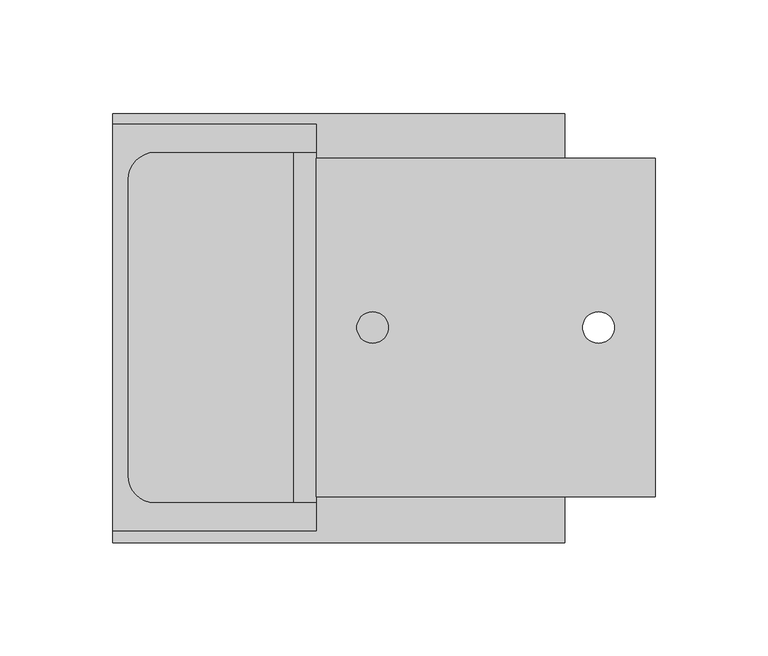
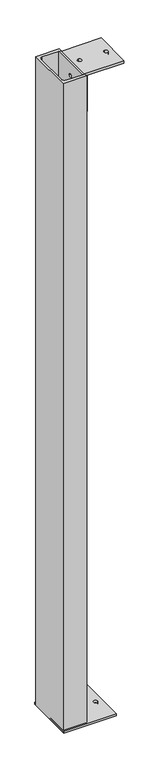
"""IFC4 building model written with IfcOpenShell, lengths in millimetres: column geometry, UKPFC-Parallel Flange Channels-Column_Connections_Top rotated : UKPFC180x90x26."""

from ifc_helpers import new_model, si_unit, point, frame, frame_2d, origin, place, context, project, spatial, polyline, circle_curve, trimmed, segment, composite_curve, outline, extrude, source, transform, mapped, element, save
from ifc_brep_helpers import plane_surface, revolved_surface, advanced_brep


def column_0594fa48(model_context):
    return source(origin(), model_context, "Body", "SolidModel", [
        extrude(outline(composite_curve([segment(polyline([(58.3, 90.0), (58.3, 77.5), (-13.2, 77.5)]), True, "CONTINUOUS"), segment(trimmed(circle_curve(frame_2d((-13.2, 65.5)), 12.0), [point((-13.2, 77.5))], [point((-25.2, 65.5))], True, "CARTESIAN"), True, "CONTINUOUS"), segment(polyline([(-25.2, 65.5), (-25.2, -65.5)]), True, "CONTINUOUS"), segment(trimmed(circle_curve(frame_2d((-13.2, -65.5)), 12.0), [point((-25.2, -65.5))], [point((-13.2, -77.5))], True, "CARTESIAN"), True, "CONTINUOUS"), segment(polyline([(-13.2, -77.5), (58.3, -77.5), (58.3, -90.0), (-31.7, -90.0), (-31.7, 90.0), (58.3, 90.0)]), True, "CONTINUOUS")], self_intersect=False)), frame((0.0, 0.0, 242.0), z_axis=(0.0, 0.0, 1.0), x_axis=(1.0, 0.0, 0.0)), (0.0, 0.0, 1.0), 2605.0),
        advanced_brep(
        [(208.3, -75.0, 2847.0), (208.3, 75.0, 2847.0), (58.3, 75.0, 2847.0), (58.3, -75.0, 2847.0), (183.3, 7.0, 2847.0), (183.3, -7.0, 2847.0), (83.3, 7.0, 2847.0), (83.3, -7.0, 2847.0), (208.3, 75.0, 2837.0), (208.3, -75.0, 2837.0), (68.3, -75.0, 2837.0), (68.3, 75.0, 2837.0), (183.3, 7.0, 2837.0), (183.3, -7.0, 2837.0), (83.3, 7.0, 2837.0), (83.3, -7.0, 2837.0), (68.3, 75.0, 2692.0), (58.3, 75.0, 2692.0), (58.3, -75.0, 2692.0), (58.3, -7.0, 2797.0), (58.3, 7.0, 2797.0), (58.3, -7.0, 2742.0), (58.3, 7.0, 2742.0), (68.3, -75.0, 2692.0), (68.3, -7.0, 2797.0), (68.3, 7.0, 2797.0), (68.3, -7.0, 2742.0), (68.3, 7.0, 2742.0)],
        [
            (0, 1),
            (1, 2),
            (2, 3),
            (3, 0),
            (4, 5, circle_curve(frame((183.3, 0.0, 2847.0), z_axis=(0.0, 0.0, -1.0), x_axis=(0.0, -1.0, 0.0)), 7.0)),
            (5, 4, circle_curve(frame((183.3, 0.0, 2847.0), z_axis=(0.0, 0.0, -1.0), x_axis=(0.0, -1.0, 0.0)), 7.0)),
            (6, 7, circle_curve(frame((83.3, 0.0, 2847.0), z_axis=(0.0, 0.0, -1.0), x_axis=(0.0, -1.0, 0.0)), 7.0)),
            (7, 6, circle_curve(frame((83.3, 0.0, 2847.0), z_axis=(0.0, 0.0, -1.0), x_axis=(0.0, -1.0, 0.0)), 7.0)),
            (8, 9),
            (9, 10),
            (10, 11),
            (11, 8),
            (12, 13, circle_curve(frame((183.3, 0.0, 2837.0), z_axis=(0.0, 0.0, 1.0), x_axis=(0.0, -1.0, 0.0)), 7.0)),
            (13, 12, circle_curve(frame((183.3, 0.0, 2837.0), z_axis=(0.0, 0.0, 1.0), x_axis=(0.0, -1.0, 0.0)), 7.0)),
            (14, 15, circle_curve(frame((83.3, 0.0, 2837.0), z_axis=(0.0, 0.0, 1.0), x_axis=(0.0, -1.0, 0.0)), 7.0)),
            (15, 14, circle_curve(frame((83.3, 0.0, 2837.0), z_axis=(0.0, 0.0, 1.0), x_axis=(0.0, -1.0, 0.0)), 7.0)),
            (0, 9),
            (8, 1),
            (11, 16),
            (16, 17),
            (17, 2),
            (17, 18),
            (18, 3),
            (19, 20, circle_curve(frame((58.3, 0.0, 2797.0), z_axis=(1.0, 0.0, 0.0), x_axis=(0.0, 1.0, 0.0)), 7.0)),
            (20, 19, circle_curve(frame((58.3, 0.0, 2797.0), z_axis=(1.0, 0.0, 0.0), x_axis=(0.0, 1.0, 0.0)), 7.0)),
            (21, 22, circle_curve(frame((58.3, 0.0, 2742.0), z_axis=(1.0, 0.0, 0.0), x_axis=(0.0, 1.0, 0.0)), 7.0)),
            (22, 21, circle_curve(frame((58.3, 0.0, 2742.0), z_axis=(1.0, 0.0, 0.0), x_axis=(0.0, 1.0, 0.0)), 7.0)),
            (18, 23),
            (23, 10),
            (4, 12),
            (13, 5),
            (6, 14),
            (15, 7),
            (23, 16),
            (24, 25, circle_curve(frame((68.3, 0.0, 2797.0), z_axis=(-1.0, 0.0, 0.0), x_axis=(0.0, 1.0, 0.0)), 7.0)),
            (25, 24, circle_curve(frame((68.3, 0.0, 2797.0), z_axis=(-1.0, 0.0, 0.0), x_axis=(0.0, 1.0, 0.0)), 7.0)),
            (26, 27, circle_curve(frame((68.3, 0.0, 2742.0), z_axis=(-1.0, 0.0, 0.0), x_axis=(0.0, 1.0, 0.0)), 7.0)),
            (27, 26, circle_curve(frame((68.3, 0.0, 2742.0), z_axis=(-1.0, 0.0, 0.0), x_axis=(0.0, 1.0, 0.0)), 7.0)),
            (24, 19),
            (20, 25),
            (26, 21),
            (22, 27),
        ],
        [
            plane_surface(frame((208.3, 125.0, 2847.0), z_axis=(0.0, 0.0, 1.0), x_axis=(0.0, 1.0, 0.0))),
            plane_surface(frame((208.3, 125.0, 2837.0), z_axis=(0.0, 0.0, -1.0), x_axis=(0.0, -1.0, 0.0))),
            plane_surface(frame((208.3, -75.0, 2847.0), z_axis=(1.0, 0.0, 0.0), x_axis=(0.0, 0.0, -1.0))),
            plane_surface(frame((208.3, 75.0, 2847.0), z_axis=(0.0, 1.0, 0.0), x_axis=(0.0, 0.0, -1.0))),
            plane_surface(frame((58.3, 75.0, 2847.0), z_axis=(-1.0, 0.0, 0.0), x_axis=(0.0, 0.0, -1.0))),
            plane_surface(frame((58.3, -75.0, 2847.0), z_axis=(0.0, -1.0, 0.0), x_axis=(0.0, 0.0, -1.0))),
            revolved_surface(polyline([(183.3, -7.0, 2837.0), (183.3, -7.0, 2847.0)]), (183.3, 0.0, 2490.0), (0.0, 0.0, -1.0)),
            revolved_surface(polyline([(83.3, -7.0, 2837.0), (83.3, -7.0, 2847.0)]), (83.3, 0.0, 2490.0), (0.0, 0.0, -1.0)),
            plane_surface(frame((68.3, -75.0, 2837.0), z_axis=(1.0, 0.0, 0.0), x_axis=(0.0, 0.0, -1.0))),
            plane_surface(frame((68.3, -75.0, 2692.0), z_axis=(0.0, 0.0, -1.0), x_axis=(-1.0, 0.0, 0.0))),
            revolved_surface(polyline([(58.3, 7.0, 2797.0), (68.3, 7.0, 2797.0)]), (10.0, 0.0, 2797.0), (-1.0, 0.0, 0.0)),
            revolved_surface(polyline([(58.3, 7.0, 2742.0), (68.3, 7.0, 2742.0)]), (10.0, 0.0, 2742.0), (-1.0, 0.0, 0.0)),
        ],
        [
            (0, [[1, 2, 3, 4], [5, 6], [7, 8]]),
            (1, [[9, 10, 11, 12], [13, 14], [15, 16]]),
            (2, [[-1, 17, -9, 18]]),
            (3, [[-2, -18, -12, 19, 20, 21]]),
            (4, [[-3, -21, 22, 23], [24, 25], [26, 27]]),
            (5, [[-4, -23, 28, 29, -10, -17]]),
            (6, [[-5, 30, -14, 31]]),
            (6, [[-6, -31, -13, -30]]),
            (7, [[-7, 32, -16, 33]]),
            (7, [[-8, -33, -15, -32]]),
            (8, [[-29, 34, -19, -11], [35, 36], [37, 38]]),
            (9, [[-34, -28, -22, -20]]),
            (10, [[-35, 39, -25, 40]]),
            (10, [[-36, -40, -24, -39]]),
            (11, [[-37, 41, -27, 42]]),
            (11, [[-38, -42, -26, -41]]),
        ],
    ),
        extrude(outline(polyline([(-77.5, 2847.0), (77.5, 2847.0), (77.5, 2692.0), (-77.5, 2692.0), (-77.5, 2847.0)]), holes=[composite_curve([segment(trimmed(circle_curve(frame_2d((0.0, 2797.0)), 7.0), [point((-7.0, 2797.0))], [point((7.0, 2797.0))], True, "CARTESIAN"), True, "CONTINUOUS"), segment(trimmed(circle_curve(frame_2d((0.0, 2797.0)), 7.0), [point((7.0, 2797.0))], [point((-7.0, 2797.0))], True, "CARTESIAN"), True, "CONTINUOUS")], self_intersect=False), composite_curve([segment(trimmed(circle_curve(frame_2d((0.0, 2742.0)), 7.0), [point((-7.0, 2742.0))], [point((7.0, 2742.0))], True, "CARTESIAN"), True, "CONTINUOUS"), segment(trimmed(circle_curve(frame_2d((0.0, 2742.0)), 7.0), [point((7.0, 2742.0))], [point((-7.0, 2742.0))], True, "CARTESIAN"), True, "CONTINUOUS")], self_intersect=False)]), frame((48.3, 0.0, 0.0), z_axis=(1.0, 0.0, 0.0), x_axis=(0.0, 1.0, 0.0)), (0.0, 0.0, 1.0), 10.0),
        extrude(outline(polyline([(168.3, 95.0), (168.3, -94.8296291), (-31.7, -94.8296291), (-31.7, 95.0), (168.3, 95.0)]), holes=[composite_curve([segment(trimmed(circle_curve(frame_2d((68.3, 0.0)), 7.0), [point((61.3, 0.0))], [point((75.3, 0.0))], True, "CARTESIAN"), True, "CONTINUOUS"), segment(trimmed(circle_curve(frame_2d((68.3, 0.0)), 7.0), [point((75.3, 0.0))], [point((61.3, 0.0))], True, "CARTESIAN"), True, "CONTINUOUS")], self_intersect=False), composite_curve([segment(trimmed(circle_curve(frame_2d((143.3, 0.0)), 7.0), [point((136.3, 0.0))], [point((150.3, 0.0))], True, "CARTESIAN"), True, "CONTINUOUS"), segment(trimmed(circle_curve(frame_2d((143.3, 0.0)), 7.0), [point((150.3, 0.0))], [point((136.3, 0.0))], True, "CARTESIAN"), True, "CONTINUOUS")], self_intersect=False)]), frame((0.0, 0.0, 242.0), z_axis=(0.0, 0.0, 1.0), x_axis=(1.0, 0.0, 0.0)), (0.0, 0.0, 1.0), 8.0),
    ])


if __name__ == "__main__":
    model = new_model("IFC4")
    model_context = context("Model", 3, world=origin())
    ifc_project = project(units=[si_unit("LENGTHUNIT", "METRE", prefix="MILLI")], contexts=[model_context])
    site = spatial("IfcSite", under=ifc_project)
    building = spatial("IfcBuilding", under=site)
    placement = place(None, origin())
    column_shape = column_0594fa48(model_context)
    element("IfcColumn", 1, ObjectType="UKPFC-Parallel Flange Channels-Column_Connections_Top rotated : UKPFC180x90x26", at=placement, inside=building, context=model_context, shape_type="MappedRepresentation", body=[
        mapped(column_shape, transform((0.0, 0.0, 0.0), x_axis=(1.0, 0.0, 0.0), y_axis=(0.0, 1.0, 0.0), z_axis=(0.0, 0.0, 1.0))),
    ])
    save(model, "model.ifc")
